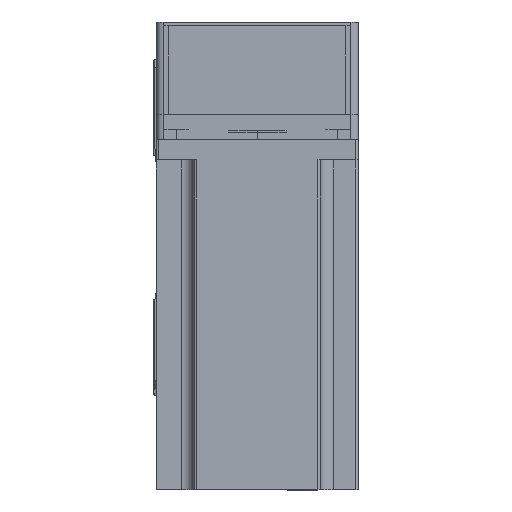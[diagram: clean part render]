
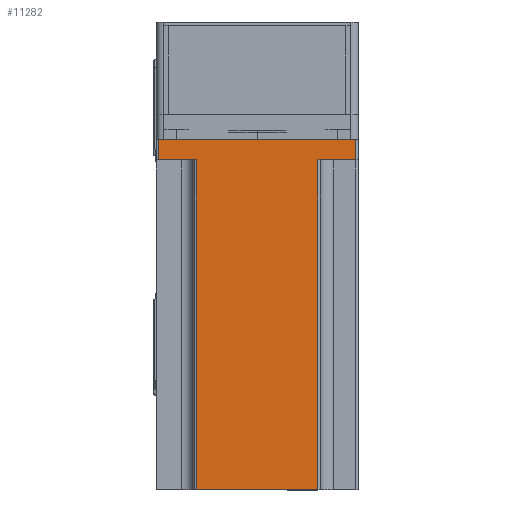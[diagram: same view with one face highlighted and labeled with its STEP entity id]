
A CAD part, top view. The second image highlights one B-rep face of the part: STEP entity #11282.
In plain terms, the highlighted planar face has unit normal (0, 0, 1) as drawn and (0, 1, 0) by its records, which use the part's own axes.
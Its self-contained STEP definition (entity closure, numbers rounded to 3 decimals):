
#1611 = LINE ( 'NONE', #12050, #44081 ) ;
#2822 = CARTESIAN_POINT ( 'NONE',  ( -25., 40., 8. ) ) ;
#2957 = PLANE ( 'NONE',  #44697 ) ;
#3183 = ORIENTED_EDGE ( 'NONE', *, *, #11099, .T. ) ;
#5805 = DIRECTION ( 'NONE',  ( 0., 0., -1. ) ) ;
#6034 = EDGE_CURVE ( 'NONE', #45629, #49441, #54822, .T. ) ;
#7486 = VECTOR ( 'NONE', #15033, 1000. ) ;
#7728 = CARTESIAN_POINT ( 'NONE',  ( 40., 40., 138.3 ) ) ;
#7791 = VECTOR ( 'NONE', #19440, 1000. ) ;
#8940 = CARTESIAN_POINT ( 'NONE',  ( 39., 40., 8. ) ) ;
#11017 = LINE ( 'NONE', #49608, #34320 ) ;
#11099 = EDGE_CURVE ( 'NONE', #53447, #49441, #41023, .T. ) ;
#11282 = ADVANCED_FACE ( 'NONE', ( #30085 ), #2957, .F. ) ;
#12050 = CARTESIAN_POINT ( 'NONE',  ( 24., 40., 138.3 ) ) ;
#12153 = DIRECTION ( 'NONE',  ( 1., 0., 0. ) ) ;
#12431 = EDGE_CURVE ( 'NONE', #51929, #53447, #28491, .T. ) ;
#12484 = LINE ( 'NONE', #33034, #22772 ) ;
#15033 = DIRECTION ( 'NONE',  ( 0., 0., 1. ) ) ;
#16860 = VECTOR ( 'NONE', #42233, 1000. ) ;
#19023 = CARTESIAN_POINT ( 'NONE',  ( -39., 40., 0. ) ) ;
#19040 = ORIENTED_EDGE ( 'NONE', *, *, #44627, .T. ) ;
#19116 = DIRECTION ( 'NONE',  ( -1., 0., 0. ) ) ;
#19440 = DIRECTION ( 'NONE',  ( 0., 0., 1. ) ) ;
#19448 = LINE ( 'NONE', #36882, #7791 ) ;
#19979 = VECTOR ( 'NONE', #50286, 1000. ) ;
#20576 = CARTESIAN_POINT ( 'NONE',  ( 39., 40., 0. ) ) ;
#21016 = LINE ( 'NONE', #32165, #44279 ) ;
#22772 = VECTOR ( 'NONE', #37446, 1000. ) ;
#23289 = CARTESIAN_POINT ( 'NONE',  ( 24., 40., 138.3 ) ) ;
#25289 = DIRECTION ( 'NONE',  ( 0., 0., -1. ) ) ;
#26007 = VERTEX_POINT ( 'NONE', #20576 ) ;
#27449 = EDGE_CURVE ( 'NONE', #37200, #47615, #12484, .T. ) ;
#27505 = ORIENTED_EDGE ( 'NONE', *, *, #45308, .T. ) ;
#27658 = ORIENTED_EDGE ( 'NONE', *, *, #37419, .T. ) ;
#28240 = CARTESIAN_POINT ( 'NONE',  ( -24., 40., 138.3 ) ) ;
#28491 = LINE ( 'NONE', #2822, #16860 ) ;
#30085 = FACE_OUTER_BOUND ( 'NONE', #52384, .T. ) ;
#32165 = CARTESIAN_POINT ( 'NONE',  ( 40., 40., 0. ) ) ;
#33034 = CARTESIAN_POINT ( 'NONE',  ( 25., 40., 8. ) ) ;
#34320 = VECTOR ( 'NONE', #5805, 1000. ) ;
#36636 = CARTESIAN_POINT ( 'NONE',  ( -24., 40., 138.3 ) ) ;
#36882 = CARTESIAN_POINT ( 'NONE',  ( -39., 40., 138.3 ) ) ;
#37200 = VERTEX_POINT ( 'NONE', #8940 ) ;
#37419 = EDGE_CURVE ( 'NONE', #47215, #51929, #19448, .T. ) ;
#37446 = DIRECTION ( 'NONE',  ( -1., 0., 0. ) ) ;
#38369 = DIRECTION ( 'NONE',  ( 0., -1., 0. ) ) ;
#40468 = ORIENTED_EDGE ( 'NONE', *, *, #6034, .F. ) ;
#40941 = CARTESIAN_POINT ( 'NONE',  ( -24., 40., 8. ) ) ;
#41023 = LINE ( 'NONE', #28240, #7486 ) ;
#41364 = ORIENTED_EDGE ( 'NONE', *, *, #27449, .F. ) ;
#42233 = DIRECTION ( 'NONE',  ( 1., 0., 0. ) ) ;
#44081 = VECTOR ( 'NONE', #25289, 1000. ) ;
#44279 = VECTOR ( 'NONE', #19116, 1000. ) ;
#44341 = ORIENTED_EDGE ( 'NONE', *, *, #12431, .T. ) ;
#44510 = ORIENTED_EDGE ( 'NONE', *, *, #50010, .T. ) ;
#44627 = EDGE_CURVE ( 'NONE', #37200, #26007, #11017, .T. ) ;
#44697 = AXIS2_PLACEMENT_3D ( 'NONE', #7728, #38369, #12153 ) ;
#45308 = EDGE_CURVE ( 'NONE', #45629, #47615, #1611, .T. ) ;
#45629 = VERTEX_POINT ( 'NONE', #23289 ) ;
#45926 = CARTESIAN_POINT ( 'NONE',  ( 40., 40., 138.3 ) ) ;
#47215 = VERTEX_POINT ( 'NONE', #19023 ) ;
#47615 = VERTEX_POINT ( 'NONE', #52596 ) ;
#47645 = CARTESIAN_POINT ( 'NONE',  ( -39., 40., 8. ) ) ;
#49441 = VERTEX_POINT ( 'NONE', #36636 ) ;
#49608 = CARTESIAN_POINT ( 'NONE',  ( 39., 40., 138.3 ) ) ;
#50010 = EDGE_CURVE ( 'NONE', #26007, #47215, #21016, .T. ) ;
#50286 = DIRECTION ( 'NONE',  ( -1., 0., 0. ) ) ;
#51929 = VERTEX_POINT ( 'NONE', #47645 ) ;
#52384 = EDGE_LOOP ( 'NONE', ( #44341, #3183, #40468, #27505, #41364, #19040, #44510, #27658 ) ) ;
#52596 = CARTESIAN_POINT ( 'NONE',  ( 24., 40., 8. ) ) ;
#53447 = VERTEX_POINT ( 'NONE', #40941 ) ;
#54822 = LINE ( 'NONE', #45926, #19979 ) ;
